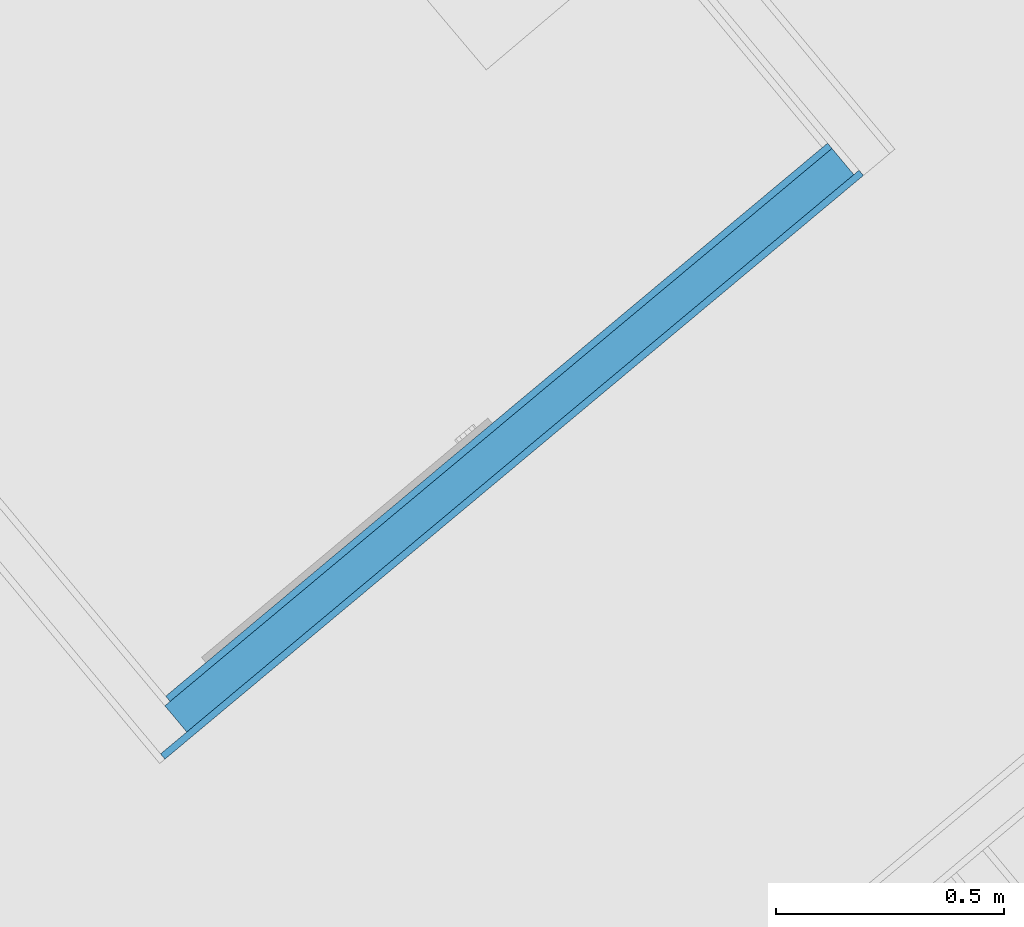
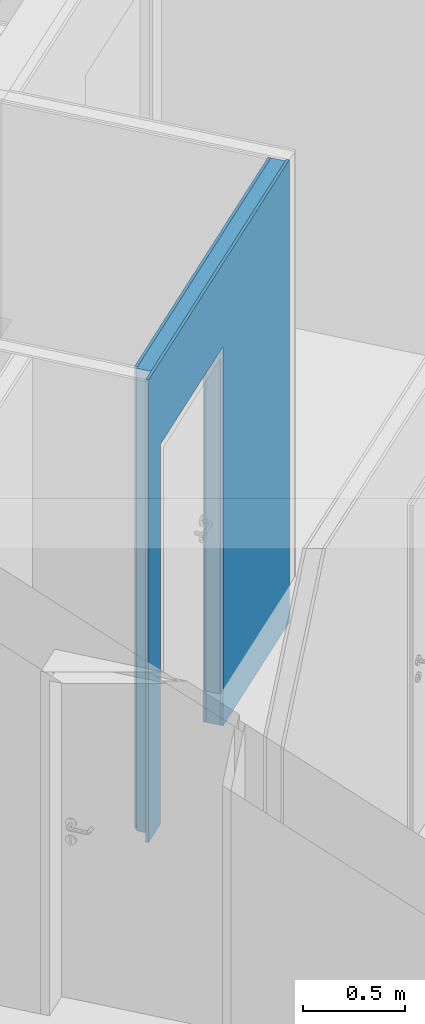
# One storey, part 4 of 75: 3 building element parts, 1 opening, 1 element without a shape of its own.
"""IFC4 building model written with IfcOpenShell, lengths in metres."""

from ifc_helpers import new_model, entity, si_unit, converted_unit, derived_unit, direction, frame, origin_with_axes, place, context, subcontext, project, spatial, polygons, material, type_object, element, aggregate, save


model = new_model("IFC4")

# Units and contexts
model_context = context("Model", 3, precision=1e-05, world=origin_with_axes(), true_north=direction((0.0, 1.0)))
body_context = subcontext(model_context, "Body", "Model", "MODEL_VIEW")
ifc_project = project(units=[si_unit("LENGTHUNIT", "METRE"), si_unit("AREAUNIT", "SQUARE_METRE"), si_unit("VOLUMEUNIT", "CUBIC_METRE"), converted_unit("PLANEANGLEUNIT", "DEGREE", entity("IfcPlaneAngleMeasure", 0.0174532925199), si_unit("PLANEANGLEUNIT", "RADIAN"), dimensions=[0, 0, 0, 0, 0, 0, 0]), converted_unit("TIMEUNIT", "Year", entity("IfcTimeMeasure", 31556926.0), si_unit("TIMEUNIT", "SECOND"), dimensions=[0, 0, 1, 0, 0, 0, 0]), si_unit("MASSUNIT", "GRAM", prefix="KILO"), si_unit("THERMODYNAMICTEMPERATUREUNIT", "DEGREE_CELSIUS"), si_unit("LUMINOUSINTENSITYUNIT", "LUMEN"), si_unit("ENERGYUNIT", "JOULE", prefix="MEGA"), derived_unit("THERMALCONDUCTANCEUNIT", [(si_unit("POWERUNIT", "WATT"), 1), (si_unit("LENGTHUNIT", "METRE"), -1), (si_unit("THERMODYNAMICTEMPERATUREUNIT", "KELVIN"), -1)]), derived_unit("SPECIFICHEATCAPACITYUNIT", [(si_unit("ENERGYUNIT", "JOULE"), 1), (si_unit("MASSUNIT", "GRAM", prefix="KILO"), -1), (si_unit("THERMODYNAMICTEMPERATUREUNIT", "KELVIN"), -1)]), derived_unit("MASSDENSITYUNIT", [(si_unit("MASSUNIT", "GRAM", prefix="KILO"), 1), (si_unit("VOLUMEUNIT", "CUBIC_METRE"), -1)])], contexts=[model_context])

# Site, building, storey
site_placement = place(None, frame((-0.00153261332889, -0.00661245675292, 0.0), z_axis=(0.0, 0.0, 1.0), x_axis=(1.0, 0.0, 0.0)))
site = spatial("IfcSite", under=ifc_project, at=site_placement, Name="Gelände", CompositionType="ELEMENT")
building_placement = place(site_placement, origin_with_axes())
building = spatial("IfcBuilding", under=site, at=building_placement, Name="Gebäude", CompositionType="ELEMENT")
storey_placement = place(building_placement, frame((0.0, 0.0, -0.22), z_axis=(0.0, 0.0, 1.0), x_axis=(1.0, 0.0, 0.0)))
storey = spatial("IfcBuildingStorey", under=building, at=storey_placement, Name="EG", CompositionType="ELEMENT", Elevation=-0.22)

# Wall, opening, building element parts
wall_type = type_object("IfcWallType", Name="IW LB 01 Leichtbautrennwand einfach 10,5 cm 105", PredefinedType="NOTDEFINED")
wall_placement = place(storey_placement, frame((1.00454728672, 18.4277687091, 0.0), z_axis=(0.0, 0.0, 1.0), x_axis=(0.767365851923, 0.641209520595, 0.0)))
wall = element("IfcWall", 1, at=wall_placement, inside=storey, type_object=wall_type, Name="Wand-012", PredefinedType="NOTDEFINED")
opening_placement = place(wall_placement, frame((0.630112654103, 0.0, 0.22), z_axis=(0.0, 0.0, 1.0), x_axis=(1.0, 0.0, 0.0)))
element("IfcOpeningElement", 2, at=opening_placement, cuts=wall, Name="Tür-016", context=body_context, identifier="Reference", shape_type="Tessellation", body=[
    polygons([(-0.445, -0.97786977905, 2.045), (-0.445, -0.97786977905, -0.22), (0.445, -0.97786977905, -0.22), (0.445, -0.97786977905, 2.045), (-0.445, 1.08286977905, 2.045), (-0.445, 1.08286977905, -0.22), (0.445, 1.08286977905, -0.22), (0.445, 1.08286977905, 2.045)], [[[1, 2, 3, 4]], [[5, 6, 2, 1]], [[6, 7, 3, 2]], [[7, 8, 4, 3]], [[8, 5, 1, 4]], [[7, 6, 5, 8]]], closed=True),
])
ifc_material_1 = material(Name="Gipskarton")
building_element_part_1_placement = place(wall_placement, origin_with_axes())
building_element_part_1 = element("IfcBuildingElementPart", 3, at=building_element_part_1_placement, material=ifc_material_1, Name="Gipskarton", PredefinedType="NOTDEFINED", context=body_context, shape_type="Tessellation", body=[
    polygons([(0.185112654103, 0.09, 0.22), (0.185112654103, 0.09, 2.265), (1.0751126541, 0.09, 2.265), (1.0751126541, 0.09, 0.22), (1.07511264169, 0.09, 0.0), (2.00034401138, 0.09, 0.0), (2.00034401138, 0.09, 2.76), (0.104999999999, 0.09, 2.76), (0.104999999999, 0.09, 0.0), (0.185112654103, 0.09, 0.0), (0.185112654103, 0.104999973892, 0.22), (0.185112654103, 0.105000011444, 2.265), (1.0751126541, 0.105000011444, 2.265), (1.0751126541, 0.105000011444, 0.22), (1.07511264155, 0.105000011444, 0.0), (2.00034517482, 0.105, 0.0), (2.00034517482, 0.105, 2.76), (0.104999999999, 0.105, 2.76), (0.104999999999, 0.105, 0.0), (0.185112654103, 0.104999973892, 0.0)], [[[1, 2, 3, 4, 5, 6, 7, 8, 9, 10]], [[2, 1, 11, 12]], [[3, 2, 12, 13]], [[4, 3, 13, 14]], [[4, 14, 15, 5]], [[15, 16, 6, 5]], [[7, 6, 16, 17]], [[7, 17, 18, 8]], [[18, 19, 9, 8]], [[10, 9, 19, 20]], [[11, 1, 10, 20]], [[12, 11, 20, 19, 18, 17, 16, 15, 14, 13]]], closed=True),
])
ifc_material_2 = material(Name="Mineralwolle weich")
building_element_part_2_placement = place(wall_placement, origin_with_axes())
building_element_part_2 = element("IfcBuildingElementPart", 4, at=building_element_part_2_placement, material=ifc_material_2, Name="Mineralwolle weich", PredefinedType="NOTDEFINED", context=body_context, shape_type="Tessellation", body=[
    polygons([(0.185112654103, 0.015, 0.22), (0.185112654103, 0.015, 2.265), (1.0751126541, 0.015, 2.265), (1.0751126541, 0.015, 0.22), (1.07511264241, 0.015, 0.0), (2.00033819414, 0.015, 0.0), (2.00033819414, 0.015, 2.76), (0.0899999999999, 0.015, 2.76), (0.0899999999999, 0.015, 0.0), (0.185112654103, 0.015, 0.0), (0.185112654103, 0.09, 0.22), (0.185112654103, 0.09, 2.265), (1.0751126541, 0.09, 2.265), (1.0751126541, 0.09, 0.22), (1.07511264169, 0.09, 0.0), (2.00034401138, 0.09, 0.0), (2.00034401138, 0.09, 2.76), (0.0899999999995, 0.09, 2.76), (0.0899999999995, 0.09, 0.0), (0.185112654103, 0.09, 0.0)], [[[1, 2, 3, 4, 5, 6, 7, 8, 9, 10]], [[2, 1, 11, 12]], [[3, 2, 12, 13]], [[4, 3, 13, 14]], [[4, 14, 15, 5]], [[15, 16, 6, 5]], [[7, 6, 16, 17]], [[7, 17, 18, 8]], [[18, 19, 9, 8]], [[10, 9, 19, 20]], [[11, 1, 10, 20]], [[12, 11, 20, 19, 18, 17, 16, 15, 14, 13]]], closed=True),
])
building_element_part_3_placement = place(wall_placement, origin_with_axes())
building_element_part_3 = element("IfcBuildingElementPart", 5, at=building_element_part_3_placement, material=ifc_material_1, Name="Gipskarton", PredefinedType="NOTDEFINED", context=body_context, shape_type="Tessellation", body=[
    polygons([(0.185112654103, 0.0, 0.22), (0.185112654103, 0.0, 2.265), (1.0751126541, 0.0, 2.265), (1.0751126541, 0.0, 0.22), (1.07511264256, 0.0, 0.0), (2.01533703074, 0.0, 0.0), (2.01533703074, 0.0, 2.76), (0.015, 0.0, 2.76), (0.015, 0.0, 0.0), (0.185112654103, 0.0, 0.0), (0.185112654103, 0.015, 0.22), (0.185112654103, 0.015, 2.265), (1.0751126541, 0.015, 2.265), (1.0751126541, 0.015, 0.22), (1.07511264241, 0.015, 0.0), (2.01533819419, 0.015, 0.0), (2.01533819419, 0.015, 2.76), (0.0149999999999, 0.015, 2.76), (0.0149999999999, 0.015, 0.0), (0.185112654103, 0.015, 0.0)], [[[1, 2, 3, 4, 5, 6, 7, 8, 9, 10]], [[2, 1, 11, 12]], [[3, 2, 12, 13]], [[4, 3, 13, 14]], [[4, 14, 15, 5]], [[15, 16, 6, 5]], [[7, 6, 16, 17]], [[7, 17, 18, 8]], [[18, 19, 9, 8]], [[10, 9, 19, 20]], [[11, 1, 10, 20]], [[12, 11, 20, 19, 18, 17, 16, 15, 14, 13]]], closed=True),
])
aggregate(wall, [building_element_part_1, building_element_part_2, building_element_part_3])

save(model, "model.ifc")
